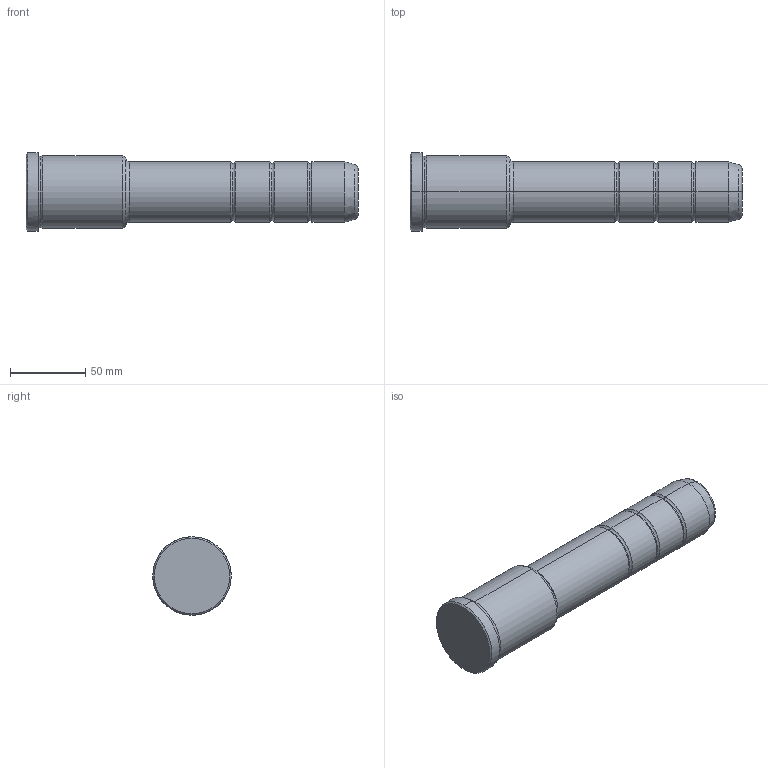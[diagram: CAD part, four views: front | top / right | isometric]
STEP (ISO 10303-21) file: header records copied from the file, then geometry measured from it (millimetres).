
FILE_DESCRIPTION(('CATIA V5 STEP Exchange'),'2;1');
FILE_NAME('C:\Users\Utente\Desktop\IO LAVORO\3D X SITO CF\X SITO\PLASTICA\351\351-40X66X220.stp','2021-10-28T18:22:23+00:00',('none'),('none'),'CATIA Version 5 Release 20 GA (IN-10)','CATIA V5 STEP AP203','none');
FILE_SCHEMA(('CONFIG_CONTROL_DESIGN'));
Length unit declared in the file: millimetre
Products named in the file (1): 351-40X66X220
Bounding box: 220 x 52 x 52 mm (x, y, z)
Volume: 313015.5 mm3; surface area: 33188.3 mm2
Topology: 1 solids, 1 shells, 42 faces, 118 edges, 80 vertices
Faces by surface type: torus 20, cylinder 12, cone 6, plane 4
Entity records: 1472 total; most frequent: CARTESIAN_POINT 353, ORIENTED_EDGE 236, DIRECTION 194, AXIS2_PLACEMENT_3D 135, EDGE_CURVE 118, CIRCLE 92, VERTEX_POINT 80, EDGE_LOOP 44
